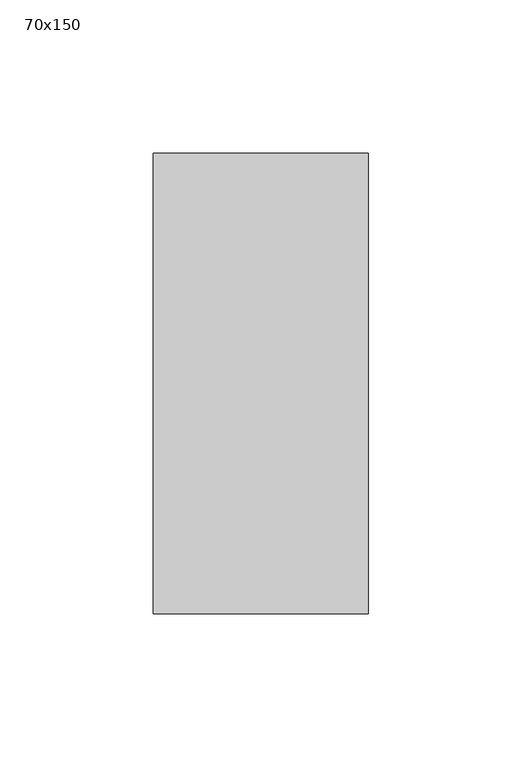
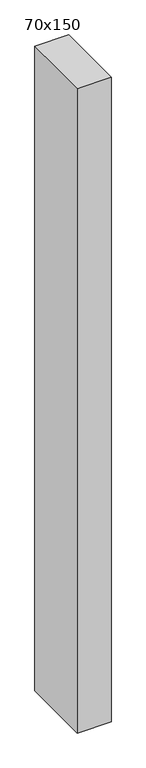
"""IFC4 building model written with IfcOpenShell, lengths in millimetres: member geometry, 長方形のマリオン : 70x150."""

import ifcopenshell
import ifcopenshell.guid

model = None  # the IFC model being written
_history = None  # IfcOwnerHistory: only IFC2X3 demands one
_inside = {}  # id of a spatial element -> (the spatial element, [elements in it])
_under = {}  # id of a project, library or spatial element -> (it, [spatial elements below it])
_declared = {}  # id of a project -> (the project, [libraries it declares])
_typed = {}  # id of a type object -> (the type object, [elements of that type])
_made_of = {}  # id of a material, layer set ... -> (it, [elements and type objects made of it])


def new_model(schema):
    """Start an empty IFC model of exactly this schema.

    Asked for "IFC4X3", IfcOpenShell would pick the latest addendum, in which some entities
    have other attributes; the version numbers below select the first issue.
    IFC2X3 requires an IfcOwnerHistory on every rooted entity: one is made here for all.
    """
    global model, _history
    if schema == "IFC4X3":
        model = ifcopenshell.file(schema_version=(4, 3, 0, 0))
    else:
        model = ifcopenshell.file(schema=schema)
    _inside.clear()
    _under.clear()
    _declared.clear()
    _typed.clear()
    _made_of.clear()
    _history = None
    if model.schema == "IFC2X3":
        org = make("IfcOrganization", Name="unknown")
        user = make(
            "IfcPersonAndOrganization",
            ThePerson=make("IfcPerson", FamilyName="unknown"),
            TheOrganization=org,
        )
        app = make(
            "IfcApplication",
            ApplicationDeveloper=org,
            Version="unknown",
            ApplicationFullName="unknown",
            ApplicationIdentifier="unknown",
        )
        _history = make(
            "IfcOwnerHistory",
            OwningUser=user,
            OwningApplication=app,
            ChangeAction="ADDED",
            CreationDate=0,
        )
    return model


def make(cls, **values):
    """One entity of the class cls with the attributes given. An attribute that is None is left unset."""
    return model.create_entity(
        cls, **{name: value for name, value in values.items() if value is not None}
    )


def rooted(cls, **values):
    """An entity with a GlobalId (a new one), such as an element, a storey or a relation."""
    return make(cls, GlobalId=ifcopenshell.guid.new(), OwnerHistory=_history, **values)


def si_unit(unit_type, name, prefix=None):
    """IfcSIUnit, for example si_unit("LENGTHUNIT", "METRE", prefix="MILLI")."""
    return make("IfcSIUnit", UnitType=unit_type, Prefix=prefix, Name=name)


def assignment(units):
    """IfcUnitAssignment: the units of a project."""
    return None if units is None else make("IfcUnitAssignment", Units=units)


def point(xyz):
    """IfcCartesianPoint."""
    return None if xyz is None else make("IfcCartesianPoint", Coordinates=xyz)


def direction(xyz):
    """IfcDirection."""
    return None if xyz is None else make("IfcDirection", DirectionRatios=xyz)


def frame(location, z_axis=None, x_axis=None):
    """IfcAxis2Placement3D, a coordinate frame: its origin and axes. An axis left out is left unset."""
    return make(
        "IfcAxis2Placement3D",
        Location=point(location),
        Axis=direction(z_axis),
        RefDirection=direction(x_axis),
    )


def origin():
    """The frame at (0, 0, 0) with its axes left unset."""
    return frame((0.0, 0.0, 0.0))


def place(relative_to, where):
    """IfcLocalPlacement: puts the frame where relative to a parent placement (None: the world)."""
    return make(
        "IfcLocalPlacement", PlacementRelTo=relative_to, RelativePlacement=where
    )


def context(
    kind, dimensions, precision=None, world=None, true_north=None, identifier=None
):
    """IfcGeometricRepresentationContext, for example the 3D "Model" context."""
    return make(
        "IfcGeometricRepresentationContext",
        ContextIdentifier=identifier,
        ContextType=kind,
        CoordinateSpaceDimension=dimensions,
        Precision=precision,
        WorldCoordinateSystem=world,
        TrueNorth=true_north,
    )


def project(units=None, contexts=None):
    """IfcProject with its units and contexts."""
    return rooted(
        "IfcProject",
        Name="project",
        RepresentationContexts=contexts,
        UnitsInContext=assignment(units),
    )


def spatial(cls, under=None, at=None, **own):
    """A site, building, storey or space (cls), placed at a placement, below another one or the project."""
    s = rooted(cls, ObjectPlacement=at, **own)
    if under is not None:
        _under.setdefault(under.id(), (under, []))[1].append(s)
    return s


def polyline(points):
    """IfcPolyline through the points."""
    return make("IfcPolyline", Points=[point(p) for p in points])


def outline(outer, holes=None, kind="AREA"):
    """IfcArbitraryClosedProfileDef: a profile drawn as a closed curve; with holes, ...WithVoids."""
    if holes is None:
        return make("IfcArbitraryClosedProfileDef", ProfileType=kind, OuterCurve=outer)
    return make(
        "IfcArbitraryProfileDefWithVoids",
        ProfileType=kind,
        OuterCurve=outer,
        InnerCurves=holes,
    )


def extrude(swept, where, along, depth):
    """IfcExtrudedAreaSolid: the profile swept, set in the frame where, extruded along a direction by depth."""
    return make(
        "IfcExtrudedAreaSolid",
        SweptArea=swept,
        Position=where,
        ExtrudedDirection=direction(along),
        Depth=depth,
    )


def shape(context_of_items, identifier, shape_type, items):
    """IfcShapeRepresentation: the items that make up one representation, for example the "Body"."""
    return make(
        "IfcShapeRepresentation",
        ContextOfItems=context_of_items,
        RepresentationIdentifier=identifier,
        RepresentationType=shape_type,
        Items=items,
    )


def source(mapping_origin, context_of_items, identifier, shape_type, items):
    """IfcRepresentationMap: a shape defined once, which mapped items show again and again."""
    return make(
        "IfcRepresentationMap",
        MappingOrigin=mapping_origin,
        MappedRepresentation=shape(context_of_items, identifier, shape_type, items),
    )


def transform(
    local_origin,
    x_axis=None,
    y_axis=None,
    z_axis=None,
    scale=None,
    scale2=None,
    scale3=None,
    uniform=True,
):
    """IfcCartesianTransformationOperator3D, or its non-uniform kind. x_axis, y_axis, z_axis: its Axis1, 2, 3."""
    if uniform:
        return make(
            "IfcCartesianTransformationOperator3D",
            Axis1=direction(x_axis),
            Axis2=direction(y_axis),
            LocalOrigin=point(local_origin),
            Scale=scale,
            Axis3=direction(z_axis),
        )
    return make(
        "IfcCartesianTransformationOperator3DnonUniform",
        Axis1=direction(x_axis),
        Axis2=direction(y_axis),
        LocalOrigin=point(local_origin),
        Scale=scale,
        Axis3=direction(z_axis),
        Scale2=scale2,
        Scale3=scale3,
    )


def mapped(mapping_source, mapping_target):
    """IfcMappedItem: shows the shape of a source again, moved by a transform."""
    return make(
        "IfcMappedItem", MappingSource=mapping_source, MappingTarget=mapping_target
    )


def made_of(thing, what):
    """Note that an element or type object is made of a material, layer set ...; save() writes the relation."""
    if what is not None:
        _made_of.setdefault(what.id(), (what, []))[1].append(thing)
    return thing


def element(
    cls,
    number,
    at=None,
    inside=None,
    cuts=None,
    type_object=None,
    material=None,
    context=None,
    identifier="Body",
    shape_type=None,
    held_by="IfcProductDefinitionShape",
    body=None,
    shapes=None,
    **own,
):
    """One element of the class cls, such as IfcWall. Its Tag is "e" and its number.

    at: its placement. inside: the storey or other place that contains it. cuts: it is an
    opening in that element (IfcRelVoidsElement). A single representation is given by context,
    identifier, shape_type and body (its items); several are given by shapes. held_by: the class
    of the entity that holds the representations. save() writes the other relations.
    """
    e = rooted(cls, Tag="e%d" % number, ObjectPlacement=at, **own)
    if body is not None:
        shapes = [shape(context, identifier, shape_type, body)]
    if shapes is not None:
        e.Representation = make(held_by, Representations=shapes)
    if inside is not None:
        _inside.setdefault(inside.id(), (inside, []))[1].append(e)
    if cuts is not None:
        rooted(
            "IfcRelVoidsElement", RelatingBuildingElement=cuts, RelatedOpeningElement=e
        )
    if type_object is not None:
        _typed.setdefault(type_object.id(), (type_object, []))[1].append(e)
    return made_of(e, material)


def aggregate(whole, parts):
    """IfcRelAggregates: a whole, such as a stair, and the parts it consists of."""
    return rooted("IfcRelAggregates", RelatingObject=whole, RelatedObjects=parts)


def save(model, path):
    """Write the relations noted so far, then the file.

    IfcRelAggregates (storeys below a building ...), IfcRelContainedInSpatialStructure (elements
    in a storey), IfcRelDefinesByType, IfcRelAssociatesMaterial and IfcRelDeclares: one each for
    every whole, place, type object, material and project.
    """
    for whole, parts in _under.values():
        aggregate(whole, parts)
    for where, things in _inside.values():
        rooted(
            "IfcRelContainedInSpatialStructure",
            RelatedElements=things,
            RelatingStructure=where,
        )
    for kind, things in _typed.values():
        rooted("IfcRelDefinesByType", RelatedObjects=things, RelatingType=kind)
    for what, things in _made_of.values():
        rooted("IfcRelAssociatesMaterial", RelatedObjects=things, RelatingMaterial=what)
    for by, libraries in _declared.values():
        rooted("IfcRelDeclares", RelatingContext=by, RelatedDefinitions=libraries)
    model.write(path)


def member_70x150_6df770a6(model_context):
    return source(origin(), model_context, "Body", "SweptSolid", [
        extrude(outline(polyline([(-75.0, -0.7561664), (75.0, 0.7561664), (75.0, -1401.6672959), (-75.0, -1402.2838104), (-75.0, -0.7561664)])), frame((-70.0, 0.0, 0.0), z_axis=(1.0, 0.0, 0.0), x_axis=(0.0, 1.0, 0.0)), (0.0, 0.0, 1.0), 70.0),
    ])


if __name__ == "__main__":
    model = new_model("IFC4")
    model_context = context("Model", 3, world=origin())
    ifc_project = project(units=[si_unit("LENGTHUNIT", "METRE", prefix="MILLI")], contexts=[model_context])
    site = spatial("IfcSite", under=ifc_project)
    building = spatial("IfcBuilding", under=site)
    placement = place(None, origin())
    member_70x150_shape = member_70x150_6df770a6(model_context)
    element("IfcMember", 1, ObjectType="長方形のマリオン : 70x150", at=placement, inside=building, context=model_context, shape_type="MappedRepresentation", body=[
        mapped(member_70x150_shape, transform((0.0, 0.0, 0.0), x_axis=(1.0, 0.0, 0.0), y_axis=(0.0, 1.0, 0.0), z_axis=(0.0, 0.0, 1.0))),
    ])
    save(model, "model.ifc")
